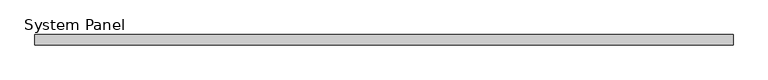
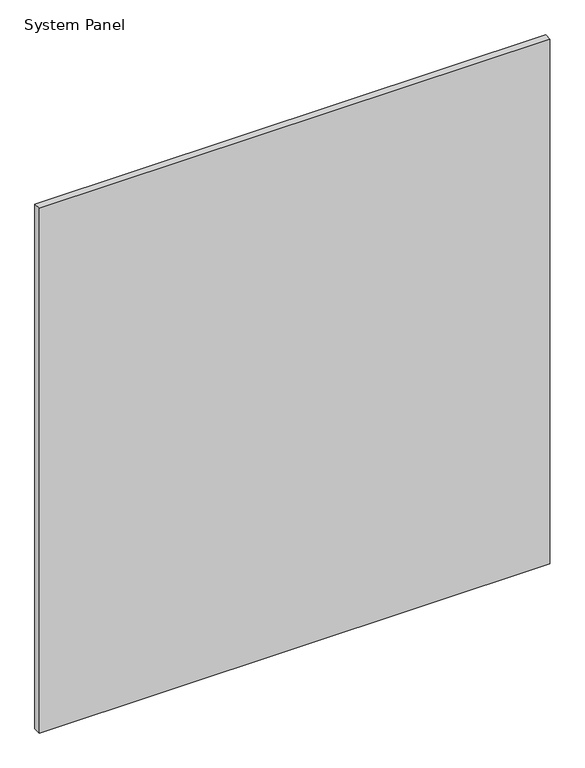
"""IFC4 building model written with IfcOpenShell, lengths in millimetres: plate geometry, System Panel : Panel_Glazed_Generic Showcase_30mm."""

from ifc_helpers import new_model, si_unit, origin, origin_with_axes, place, context, project, spatial, polyline, outline, extrude, source, transform, mapped, element, save


def system_panel_72380739(model_context):
    return source(origin(), model_context, "Body", "SweptSolid", [
        extrude(outline(polyline([(1012.5, -30.0), (-1012.5, -30.0), (-1012.5, 0.0), (1012.5, 0.0), (1012.5, -30.0)])), origin_with_axes(), (0.0, 0.0, 1.0), 2200.0),
    ])


if __name__ == "__main__":
    model = new_model("IFC4")
    model_context = context("Model", 3, world=origin())
    ifc_project = project(units=[si_unit("LENGTHUNIT", "METRE", prefix="MILLI")], contexts=[model_context])
    site = spatial("IfcSite", under=ifc_project)
    building = spatial("IfcBuilding", under=site)
    placement = place(None, origin())
    system_panel_shape = system_panel_72380739(model_context)
    element("IfcPlate", 1, ObjectType="System Panel : Panel_Glazed_Generic Showcase_30mm", at=placement, inside=building, context=model_context, shape_type="MappedRepresentation", body=[
        mapped(system_panel_shape, transform((0.0, 0.0, 0.0), x_axis=(1.0, 0.0, 0.0), y_axis=(0.0, 1.0, 0.0), z_axis=(0.0, 0.0, 1.0))),
    ])
    save(model, "model.ifc")
